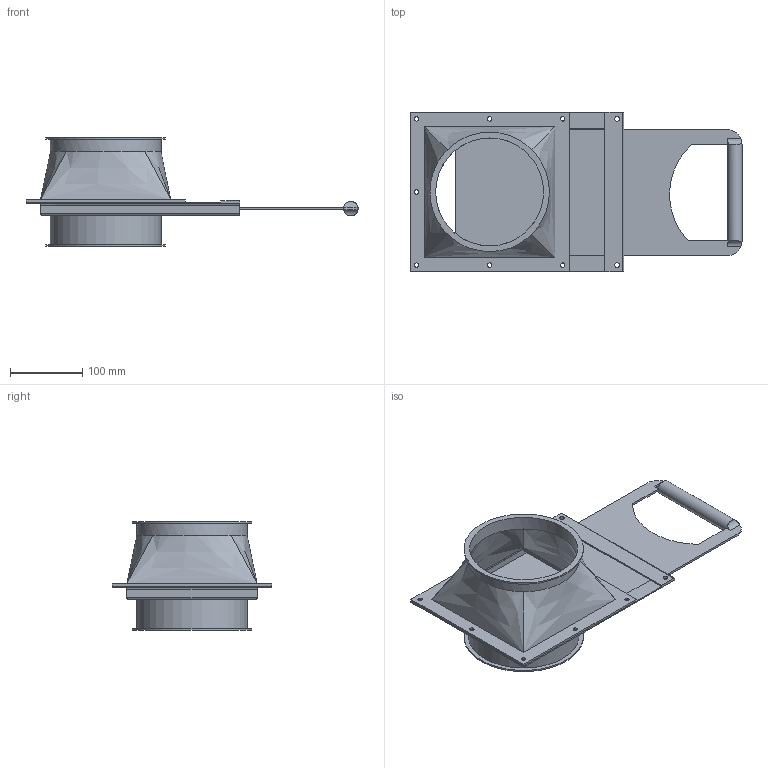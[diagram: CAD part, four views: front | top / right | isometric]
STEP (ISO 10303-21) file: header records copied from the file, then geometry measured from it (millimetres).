
FILE_DESCRIPTION((''),'2;1');
FILE_NAME('U:\Wolfgang\Marcel-3D\fertig\Kapitel 9\1521080.stp','2011-10-11T12:56:02',('iwienholt'),(''),'Autodesk Inventor 2010','Autodesk Inventor 2010','');
FILE_SCHEMA(('AUTOMOTIVE_DESIGN { 1 0 10303 214 1 1 1 1 }'));
Length unit declared in the file: millimetre
Products named in the file (4): 1521080; DN150-1; DN150-2; Schieberplatte DN150
Assembly tree (3 placements, depth 2):
  1521080
    DN150-1
    DN150-2
    Schieberplatte DN150
Bounding box: 458.5 x 220 x 150 mm (x, y, z)
Volume: 567491.7 mm3; surface area: 458912 mm2
Topology: 3 solids, 3 shells, 107 faces, 301 edges, 201 vertices
Faces by surface type: plane 60, bspline 25, cylinder 22
Full cylindrical faces by diameter (mm): 20 x1, 149 x2, 153 x3, 165 x2
Entity records: 4155 total; most frequent: CARTESIAN_POINT 1454, ORIENTED_EDGE 530, DIRECTION 487, EDGE_CURVE 265, VERTEX_POINT 190, EDGE_LOOP 175, AXIS2_PLACEMENT_3D 170, VECTOR 147
